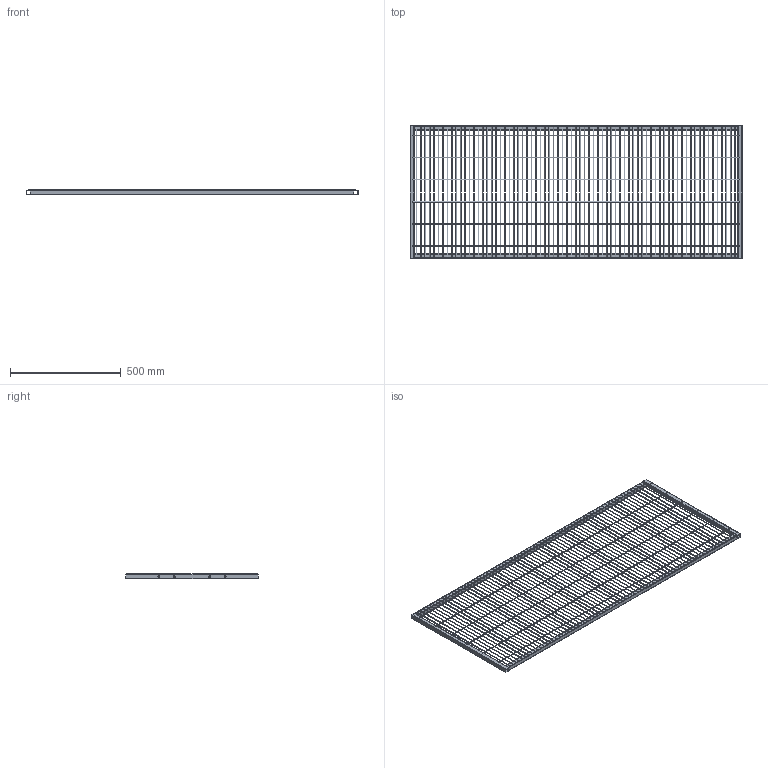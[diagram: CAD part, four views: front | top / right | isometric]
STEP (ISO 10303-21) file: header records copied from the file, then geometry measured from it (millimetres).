
FILE_DESCRIPTION (( 'STEP AP203' ), '1' );
FILE_NAME ('Framed Panel 1500 x 600.STEP', '2023-09-15T16:52:37', ( '' ), ( '' ), 'SwSTEP 2.0', 'SolidWorks 2023', '' );
FILE_SCHEMA (( 'CONFIG_CONTROL_DESIGN' ));
Length unit declared in the file: millimetre
Products named in the file (1): Framed Panel 1500 x 600
Bounding box: 1500 x 600 x 26 mm (x, y, z)
Volume: 810064.1 mm3; surface area: 1082667.8 mm2
Topology: 83 solids, 83 shells, 420 faces, 762 edges, 508 vertices
Faces by surface type: cylinder 222, plane 198
Entity records: 10483 total; most frequent: DIRECTION 2048, CARTESIAN_POINT 1691, ORIENTED_EDGE 1524, AXIS2_PLACEMENT_3D 865, EDGE_CURVE 762, VERTEX_POINT 508, EDGE_LOOP 460, CIRCLE 444
